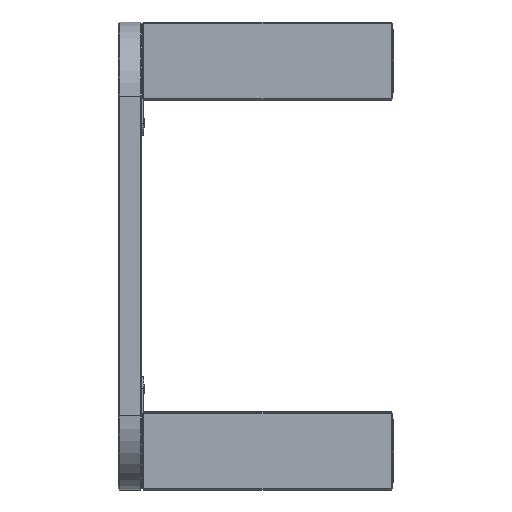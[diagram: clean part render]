
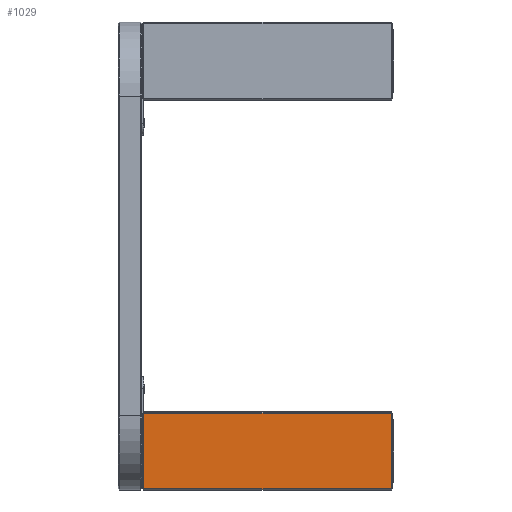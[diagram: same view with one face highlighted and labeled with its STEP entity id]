
A CAD part, left-side view. The second image highlights one B-rep face of the part: STEP entity #1029.
In plain terms, the highlighted planar face has unit normal (-1, 0, 0) as drawn and (0, 0, -1) by its records, which use the part's own axes.
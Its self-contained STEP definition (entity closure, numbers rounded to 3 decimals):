
#42 = CARTESIAN_POINT ( 'NONE',  ( -48.5, 318.5, -50. ) ) ;
#283 = VERTEX_POINT ( 'NONE', #42 ) ;
#538 = VECTOR ( 'NONE', #1817, 1000. ) ;
#659 = DIRECTION ( 'NONE',  ( 1., 0., 0. ) ) ;
#1029 = ADVANCED_FACE ( 'NONE', ( #2061 ), #3821, .F. ) ;
#1220 = DIRECTION ( 'NONE',  ( -1., 0., 0. ) ) ;
#1239 = EDGE_CURVE ( 'NONE', #3179, #283, #3910, .T. ) ;
#1336 = VECTOR ( 'NONE', #1220, 1000. ) ;
#1415 = VERTEX_POINT ( 'NONE', #2730 ) ;
#1540 = ORIENTED_EDGE ( 'NONE', *, *, #5529, .T. ) ;
#1697 = CARTESIAN_POINT ( 'NONE',  ( 48.5, 320., -50. ) ) ;
#1718 = CARTESIAN_POINT ( 'NONE',  ( -48.5, 320., -50. ) ) ;
#1817 = DIRECTION ( 'NONE',  ( 0., -1., 0. ) ) ;
#1908 = ORIENTED_EDGE ( 'NONE', *, *, #1239, .T. ) ;
#1922 = EDGE_CURVE ( 'NONE', #283, #4752, #4130, .T. ) ;
#2003 = DIRECTION ( 'NONE',  ( 1., 0., 0. ) ) ;
#2045 = LINE ( 'NONE', #3457, #1336 ) ;
#2061 = FACE_OUTER_BOUND ( 'NONE', #5102, .T. ) ;
#2080 = AXIS2_PLACEMENT_3D ( 'NONE', #5503, #5120, #659 ) ;
#2173 = CARTESIAN_POINT ( 'NONE',  ( 48.5, 318.5, -50. ) ) ;
#2620 = EDGE_CURVE ( 'NONE', #4752, #1415, #2664, .T. ) ;
#2664 = LINE ( 'NONE', #1697, #538 ) ;
#2730 = CARTESIAN_POINT ( 'NONE',  ( 48.5, 1.5, -50. ) ) ;
#3069 = VECTOR ( 'NONE', #5207, 1000. ) ;
#3179 = VERTEX_POINT ( 'NONE', #3800 ) ;
#3457 = CARTESIAN_POINT ( 'NONE',  ( -50., 1.5, -50. ) ) ;
#3800 = CARTESIAN_POINT ( 'NONE',  ( -48.5, 1.5, -50. ) ) ;
#3821 = PLANE ( 'NONE',  #2080 ) ;
#3910 = LINE ( 'NONE', #1718, #3069 ) ;
#3928 = ORIENTED_EDGE ( 'NONE', *, *, #1922, .T. ) ;
#4130 = LINE ( 'NONE', #4562, #4138 ) ;
#4138 = VECTOR ( 'NONE', #2003, 1000. ) ;
#4562 = CARTESIAN_POINT ( 'NONE',  ( -50., 318.5, -50. ) ) ;
#4752 = VERTEX_POINT ( 'NONE', #2173 ) ;
#4991 = ORIENTED_EDGE ( 'NONE', *, *, #2620, .T. ) ;
#5102 = EDGE_LOOP ( 'NONE', ( #3928, #4991, #1540, #1908 ) ) ;
#5120 = DIRECTION ( 'NONE',  ( 0., 0., 1. ) ) ;
#5207 = DIRECTION ( 'NONE',  ( 0., 1., 0. ) ) ;
#5503 = CARTESIAN_POINT ( 'NONE',  ( -50., 320., -50. ) ) ;
#5529 = EDGE_CURVE ( 'NONE', #1415, #3179, #2045, .T. ) ;
